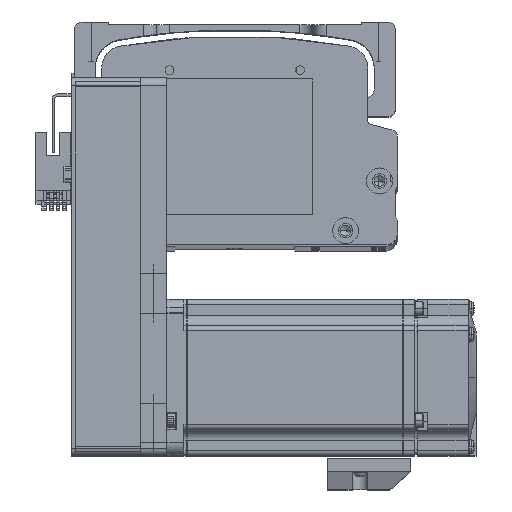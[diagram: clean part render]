
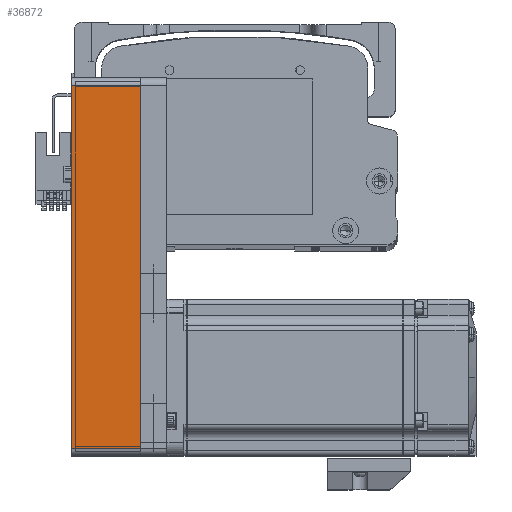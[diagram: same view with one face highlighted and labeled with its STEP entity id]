
A CAD part, top view. The second image highlights one B-rep face of the part: STEP entity #36872.
In plain terms, the highlighted planar face has unit normal (0, 0, 1) as drawn and (0, 1, 0) by its records, which use the part's own axes.
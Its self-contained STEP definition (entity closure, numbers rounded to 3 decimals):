
#3246 = VECTOR ( 'NONE', #16138, 1000. ) ;
#5071 = CARTESIAN_POINT ( 'NONE',  ( 69.5, 30., 26.5 ) ) ;
#6723 = CARTESIAN_POINT ( 'NONE',  ( -69.5, 30., 26.5 ) ) ;
#7199 = DIRECTION ( 'NONE',  ( 0., 0., 1. ) ) ;
#7871 = DIRECTION ( 'NONE',  ( -1., 0., 0. ) ) ;
#8527 = VECTOR ( 'NONE', #7199, 1000. ) ;
#16138 = DIRECTION ( 'NONE',  ( -1., 0., 0. ) ) ;
#16314 = VECTOR ( 'NONE', #28137, 1000. ) ;
#16415 = VERTEX_POINT ( 'NONE', #36002 ) ;
#21066 = VERTEX_POINT ( 'NONE', #5071 ) ;
#21380 = VERTEX_POINT ( 'NONE', #54538 ) ;
#23836 = LINE ( 'NONE', #46845, #8527 ) ;
#28137 = DIRECTION ( 'NONE',  ( 0., 0., -1. ) ) ;
#33678 = LINE ( 'NONE', #54084, #16314 ) ;
#34554 = FACE_OUTER_BOUND ( 'NONE', #49889, .T. ) ;
#35567 = DIRECTION ( 'NONE',  ( 0., -1., 0. ) ) ;
#36002 = CARTESIAN_POINT ( 'NONE',  ( -69.5, 30., 0. ) ) ;
#36872 = ADVANCED_FACE ( 'NONE', ( #34554 ), #48370, .F. ) ;
#37991 = LINE ( 'NONE', #62040, #3246 ) ;
#42692 = ORIENTED_EDGE ( 'NONE', *, *, #51328, .F. ) ;
#46845 = CARTESIAN_POINT ( 'NONE',  ( -69.5, 30., 26.5 ) ) ;
#47177 = EDGE_CURVE ( 'NONE', #21066, #21380, #33678, .T. ) ;
#48370 = PLANE ( 'NONE',  #60767 ) ;
#49889 = EDGE_LOOP ( 'NONE', ( #77345, #78611, #42692, #77250 ) ) ;
#49945 = EDGE_CURVE ( 'NONE', #16415, #75180, #23836, .T. ) ;
#51328 = EDGE_CURVE ( 'NONE', #21066, #75180, #37991, .T. ) ;
#52916 = EDGE_CURVE ( 'NONE', #21380, #16415, #76472, .T. ) ;
#53505 = CARTESIAN_POINT ( 'NONE',  ( 72.5, 30., 0. ) ) ;
#54084 = CARTESIAN_POINT ( 'NONE',  ( 69.5, 30., 26.5 ) ) ;
#54538 = CARTESIAN_POINT ( 'NONE',  ( 69.5, 30., 0. ) ) ;
#59111 = VECTOR ( 'NONE', #7871, 1000. ) ;
#60767 = AXIS2_PLACEMENT_3D ( 'NONE', #74597, #35567, #81224 ) ;
#62040 = CARTESIAN_POINT ( 'NONE',  ( 72.5, 30., 26.5 ) ) ;
#74597 = CARTESIAN_POINT ( 'NONE',  ( 72.5, 30., 26.5 ) ) ;
#75180 = VERTEX_POINT ( 'NONE', #6723 ) ;
#76472 = LINE ( 'NONE', #53505, #59111 ) ;
#77250 = ORIENTED_EDGE ( 'NONE', *, *, #47177, .T. ) ;
#77345 = ORIENTED_EDGE ( 'NONE', *, *, #52916, .T. ) ;
#78611 = ORIENTED_EDGE ( 'NONE', *, *, #49945, .T. ) ;
#81224 = DIRECTION ( 'NONE',  ( 1., 0., 0. ) ) ;
